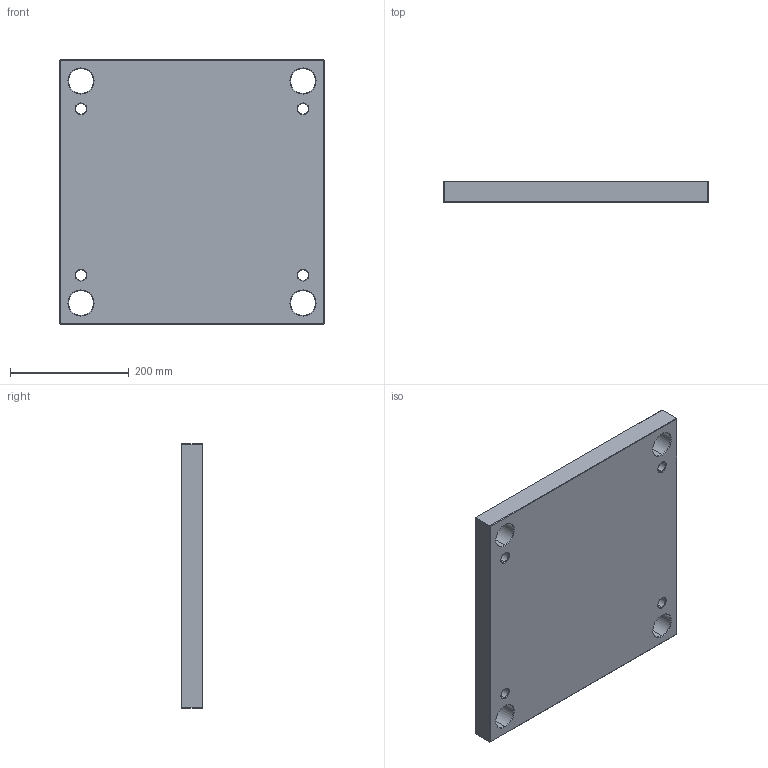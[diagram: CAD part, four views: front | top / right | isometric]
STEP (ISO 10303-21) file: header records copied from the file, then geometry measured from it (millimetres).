
FILE_DESCRIPTION (( 'STEP AP214' ), '1' );
FILE_NAME ('PBAS-EU-446x446x36.STEP', '2020-03-23T15:31:17', ( 'August' ), ( '' ), 'SwSTEP 2.0', 'SolidWorks 2018', '' );
FILE_SCHEMA (( 'AUTOMOTIVE_DESIGN' ));
Length unit declared in the file: millimetre
Products named in the file (1): PBAS-EU-446x446x36
Bounding box: 446 x 36 x 446 mm (x, y, z)
Volume: 6902252 mm3; surface area: 474790.8 mm2
Topology: 1 solids, 1 shells, 86 faces, 184 edges, 104 vertices
Faces by surface type: cone 32, plane 30, cylinder 24
Entity records: 2346 total; most frequent: DIRECTION 438, CARTESIAN_POINT 375, ORIENTED_EDGE 368, EDGE_CURVE 184, AXIS2_PLACEMENT_3D 167, EDGE_LOOP 106, VERTEX_POINT 104, VECTOR 104
